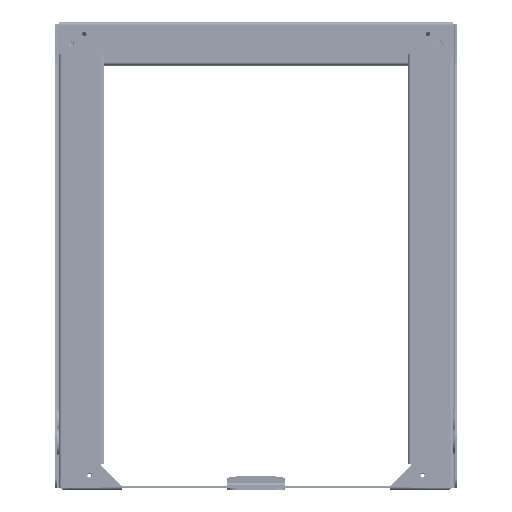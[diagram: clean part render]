
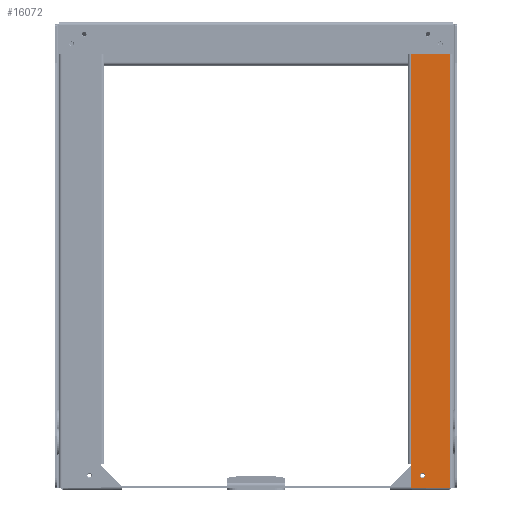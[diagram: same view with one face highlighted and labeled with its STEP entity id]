
A CAD part, front view. The second image highlights one B-rep face of the part: STEP entity #16072.
In plain terms, the highlighted planar face has unit normal (0, -1, 0).
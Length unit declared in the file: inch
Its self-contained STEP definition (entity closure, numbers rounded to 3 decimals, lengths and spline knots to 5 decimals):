
#1700 = DIRECTION ( 'NONE',  ( 1., 0., 0. ) ) ;
#1705 = DIRECTION ( 'NONE',  ( 0., -1., 0. ) ) ;
#1709 = CARTESIAN_POINT ( 'NONE',  ( -2.2, -3.427, 12. ) ) ;
#1713 = PLANE ( 'NONE',  #63164 ) ;
#5686 = CARTESIAN_POINT ( 'NONE',  ( -0.177, -3.427, 12. ) ) ;
#5697 = CARTESIAN_POINT ( 'NONE',  ( -2.2, -3.427, 12. ) ) ;
#5698 = DIRECTION ( 'NONE',  ( 0., 0., -1. ) ) ;
#5700 = DIRECTION ( 'NONE',  ( 0., 0., 1. ) ) ;
#5703 = CARTESIAN_POINT ( 'NONE',  ( -2.2, -3.427, -12. ) ) ;
#5704 = DIRECTION ( 'NONE',  ( -1., 0., 0. ) ) ;
#5706 = CARTESIAN_POINT ( 'NONE',  ( -2.2, -3.427, 12. ) ) ;
#5707 = CARTESIAN_POINT ( 'NONE',  ( -0.097, -3.427, 12. ) ) ;
#5708 = DIRECTION ( 'NONE',  ( 1., 0., 0. ) ) ;
#5709 = CARTESIAN_POINT ( 'NONE',  ( -1.325, -3.427, 11.497 ) ) ;
#5718 = DIRECTION ( 'NONE',  ( 0., 1., 0. ) ) ;
#5719 = DIRECTION ( 'NONE',  ( -1., 0., 0. ) ) ;
#5720 = CARTESIAN_POINT ( 'NONE',  ( -1.605, -3.427, -11.35 ) ) ;
#5722 = DIRECTION ( 'NONE',  ( 0., -1., 0. ) ) ;
#5723 = DIRECTION ( 'NONE',  ( 1., 0., 0. ) ) ;
#5724 = CARTESIAN_POINT ( 'NONE',  ( -0.675, -3.427, 10.997 ) ) ;
#5725 = DIRECTION ( 'NONE',  ( 0., 1., 0. ) ) ;
#5726 = DIRECTION ( 'NONE',  ( -1., 0., 0. ) ) ;
#5730 = DIRECTION ( 'NONE',  ( 0., 0., 1. ) ) ;
#6210 = CARTESIAN_POINT ( 'NONE',  ( -0.675, -3.427, 10.997 ) ) ;
#6216 = DIRECTION ( 'NONE',  ( 0., 1., 0. ) ) ;
#6219 = DIRECTION ( 'NONE',  ( -1., 0., 0. ) ) ;
#6230 = CARTESIAN_POINT ( 'NONE',  ( -1.325, -3.427, 11.497 ) ) ;
#6234 = DIRECTION ( 'NONE',  ( 0., 1., 0. ) ) ;
#6237 = DIRECTION ( 'NONE',  ( -1., 0., 0. ) ) ;
#11104 = LINE ( 'NONE', #5697, #11105 ) ;
#11105 = VECTOR ( 'NONE', #5698, 39.37008 ) ;
#11108 = LINE ( 'NONE', #5686, #11110 ) ;
#11110 = VECTOR ( 'NONE', #5700, 39.37008 ) ;
#11111 = VECTOR ( 'NONE', #5730, 39.37008 ) ;
#11114 = LINE ( 'NONE', #5703, #11115 ) ;
#11115 = VECTOR ( 'NONE', #5704, 39.37008 ) ;
#11116 = LINE ( 'NONE', #5707, #11117 ) ;
#11117 = VECTOR ( 'NONE', #5708, 39.37008 ) ;
#11126 = CIRCLE ( 'NONE', #18737, 0.133 ) ;
#11127 = CIRCLE ( 'NONE', #18728, 0.133 ) ;
#11128 = LINE ( 'NONE', #5706, #11111 ) ;
#11129 = CIRCLE ( 'NONE', #18721, 0.133 ) ;
#11298 = CIRCLE ( 'NONE', #18979, 0.133 ) ;
#11304 = CIRCLE ( 'NONE', #18984, 0.133 ) ;
#11389 = CIRCLE ( 'NONE', #19065, 0.133 ) ;
#13329 = VERTEX_POINT ( 'NONE', #30576 ) ;
#13357 = VERTEX_POINT ( 'NONE', #30527 ) ;
#13417 = VERTEX_POINT ( 'NONE', #30431 ) ;
#13454 = VERTEX_POINT ( 'NONE', #30376 ) ;
#13481 = VERTEX_POINT ( 'NONE', #30332 ) ;
#13482 = VERTEX_POINT ( 'NONE', #30330 ) ;
#13500 = VERTEX_POINT ( 'NONE', #30301 ) ;
#13505 = VERTEX_POINT ( 'NONE', #30293 ) ;
#13686 = VERTEX_POINT ( 'NONE', #30007 ) ;
#13711 = VERTEX_POINT ( 'NONE', #29982 ) ;
#13998 = VERTEX_POINT ( 'NONE', #29636 ) ;
#16072 = ADVANCED_FACE ( 'NONE', ( #53022, #53033, #53037, #53040 ), #1713, .T. ) ;
#18721 = AXIS2_PLACEMENT_3D ( 'NONE', #5724, #5725, #5726 ) ;
#18728 = AXIS2_PLACEMENT_3D ( 'NONE', #5720, #5722, #5723 ) ;
#18737 = AXIS2_PLACEMENT_3D ( 'NONE', #5709, #5718, #5719 ) ;
#18979 = AXIS2_PLACEMENT_3D ( 'NONE', #6210, #6216, #6219 ) ;
#18984 = AXIS2_PLACEMENT_3D ( 'NONE', #6230, #6234, #6237 ) ;
#19065 = AXIS2_PLACEMENT_3D ( 'NONE', #44053, #44056, #44058 ) ;
#29636 = CARTESIAN_POINT ( 'NONE',  ( -1.192, -3.427, 11.497 ) ) ;
#29982 = CARTESIAN_POINT ( 'NONE',  ( -1.458, -3.427, 11.497 ) ) ;
#30007 = CARTESIAN_POINT ( 'NONE',  ( -2.2, -3.427, -10.75 ) ) ;
#30293 = CARTESIAN_POINT ( 'NONE',  ( -2.2, -3.427, -12. ) ) ;
#30301 = CARTESIAN_POINT ( 'NONE',  ( -0.177, -3.427, 12. ) ) ;
#30330 = CARTESIAN_POINT ( 'NONE',  ( -0.177, -3.427, -12. ) ) ;
#30332 = CARTESIAN_POINT ( 'NONE',  ( -0.808, -3.427, 10.997 ) ) ;
#30376 = CARTESIAN_POINT ( 'NONE',  ( -1.472, -3.427, -11.35 ) ) ;
#30431 = CARTESIAN_POINT ( 'NONE',  ( -1.738, -3.427, -11.35 ) ) ;
#30527 = CARTESIAN_POINT ( 'NONE',  ( -0.542, -3.427, 10.997 ) ) ;
#30576 = CARTESIAN_POINT ( 'NONE',  ( -2.2, -3.427, 12. ) ) ;
#35354 = EDGE_CURVE ( 'NONE', #13329, #13686, #11104, .T. ) ;
#35355 = EDGE_CURVE ( 'NONE', #13482, #13500, #11108, .T. ) ;
#35357 = EDGE_CURVE ( 'NONE', #13482, #13505, #11114, .T. ) ;
#35358 = EDGE_CURVE ( 'NONE', #13329, #13500, #11116, .T. ) ;
#35363 = EDGE_CURVE ( 'NONE', #13711, #13998, #11126, .T. ) ;
#35364 = EDGE_CURVE ( 'NONE', #13454, #13417, #11127, .T. ) ;
#35365 = EDGE_CURVE ( 'NONE', #13481, #13357, #11129, .T. ) ;
#35366 = EDGE_CURVE ( 'NONE', #13505, #13686, #11128, .T. ) ;
#35486 = EDGE_CURVE ( 'NONE', #13357, #13481, #11298, .T. ) ;
#35490 = EDGE_CURVE ( 'NONE', #13998, #13711, #11304, .T. ) ;
#35552 = EDGE_CURVE ( 'NONE', #13417, #13454, #11389, .T. ) ;
#37940 = EDGE_LOOP ( 'NONE', ( #55564, #55565, #55566, #55567, #55568 ) ) ;
#37941 = EDGE_LOOP ( 'NONE', ( #55562, #55563 ) ) ;
#37943 = EDGE_LOOP ( 'NONE', ( #55560, #55561 ) ) ;
#37949 = EDGE_LOOP ( 'NONE', ( #55558, #55559 ) ) ;
#44053 = CARTESIAN_POINT ( 'NONE',  ( -1.605, -3.427, -11.35 ) ) ;
#44056 = DIRECTION ( 'NONE',  ( 0., -1., 0. ) ) ;
#44058 = DIRECTION ( 'NONE',  ( 1., 0., 0. ) ) ;
#53022 = FACE_BOUND ( 'NONE', #37949, .T. ) ;
#53033 = FACE_BOUND ( 'NONE', #37943, .T. ) ;
#53037 = FACE_BOUND ( 'NONE', #37941, .T. ) ;
#53040 = FACE_OUTER_BOUND ( 'NONE', #37940, .T. ) ;
#55558 = ORIENTED_EDGE ( 'NONE', *, *, #35364, .F. ) ;
#55559 = ORIENTED_EDGE ( 'NONE', *, *, #35552, .F. ) ;
#55560 = ORIENTED_EDGE ( 'NONE', *, *, #35365, .T. ) ;
#55561 = ORIENTED_EDGE ( 'NONE', *, *, #35486, .T. ) ;
#55562 = ORIENTED_EDGE ( 'NONE', *, *, #35363, .T. ) ;
#55563 = ORIENTED_EDGE ( 'NONE', *, *, #35490, .T. ) ;
#55564 = ORIENTED_EDGE ( 'NONE', *, *, #35357, .F. ) ;
#55565 = ORIENTED_EDGE ( 'NONE', *, *, #35355, .T. ) ;
#55566 = ORIENTED_EDGE ( 'NONE', *, *, #35358, .F. ) ;
#55567 = ORIENTED_EDGE ( 'NONE', *, *, #35354, .T. ) ;
#55568 = ORIENTED_EDGE ( 'NONE', *, *, #35366, .F. ) ;
#63164 = AXIS2_PLACEMENT_3D ( 'NONE', #1709, #1705, #1700 ) ;
